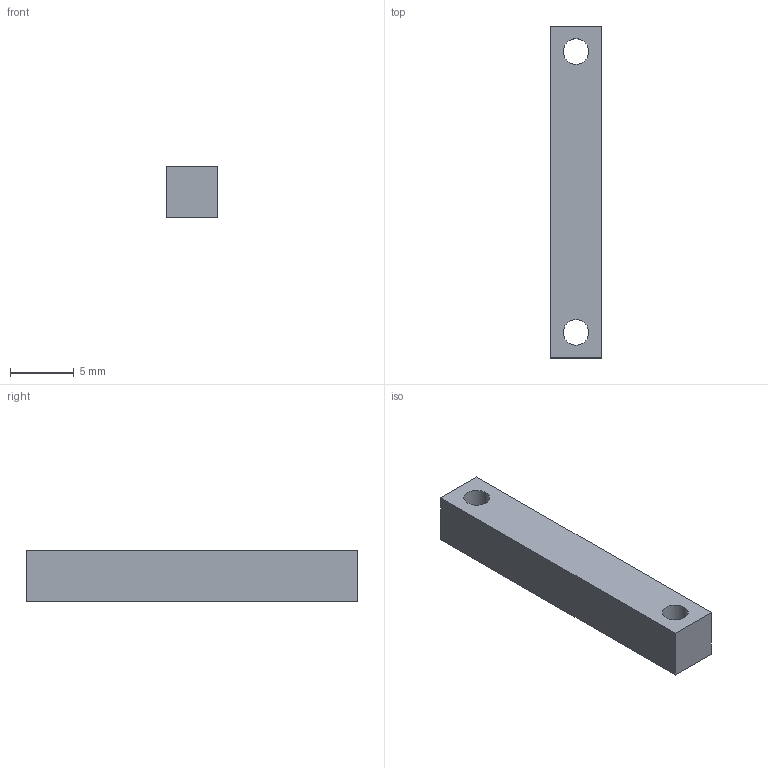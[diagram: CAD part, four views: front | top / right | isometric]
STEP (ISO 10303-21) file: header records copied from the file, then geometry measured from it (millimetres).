
FILE_DESCRIPTION (( 'STEP AP203' ), '1' );
FILE_NAME ('Biellette AR_Défaut_sldprt.STEP', '2025-03-05T11:19:53', ( '' ), ( '' ), 'SwSTEP 2.0', 'SolidWorks 2023', '' );
FILE_SCHEMA (( 'CONFIG_CONTROL_DESIGN' ));
Length unit declared in the file: millimetre
Products named in the file (1): Biellette AR_Défaut_sldprt
Bounding box: 4 x 26 x 4 mm (x, y, z)
Volume: 390.9 mm3; surface area: 485.7 mm2
Topology: 1 solids, 1 shells, 10 faces, 24 edges, 16 vertices
Faces by surface type: plane 6, cylinder 4
Entity records: 381 total; most frequent: DIRECTION 54, CARTESIAN_POINT 51, ORIENTED_EDGE 48, EDGE_CURVE 24, AXIS2_PLACEMENT_3D 19, VECTOR 16, LINE 16, VERTEX_POINT 16
